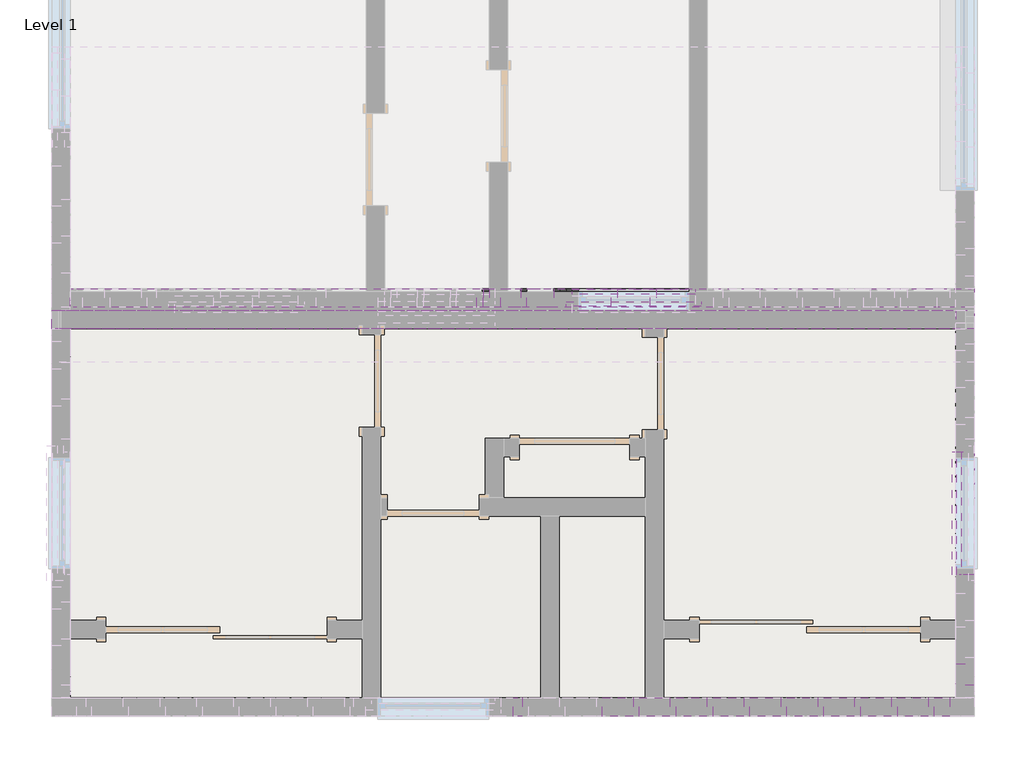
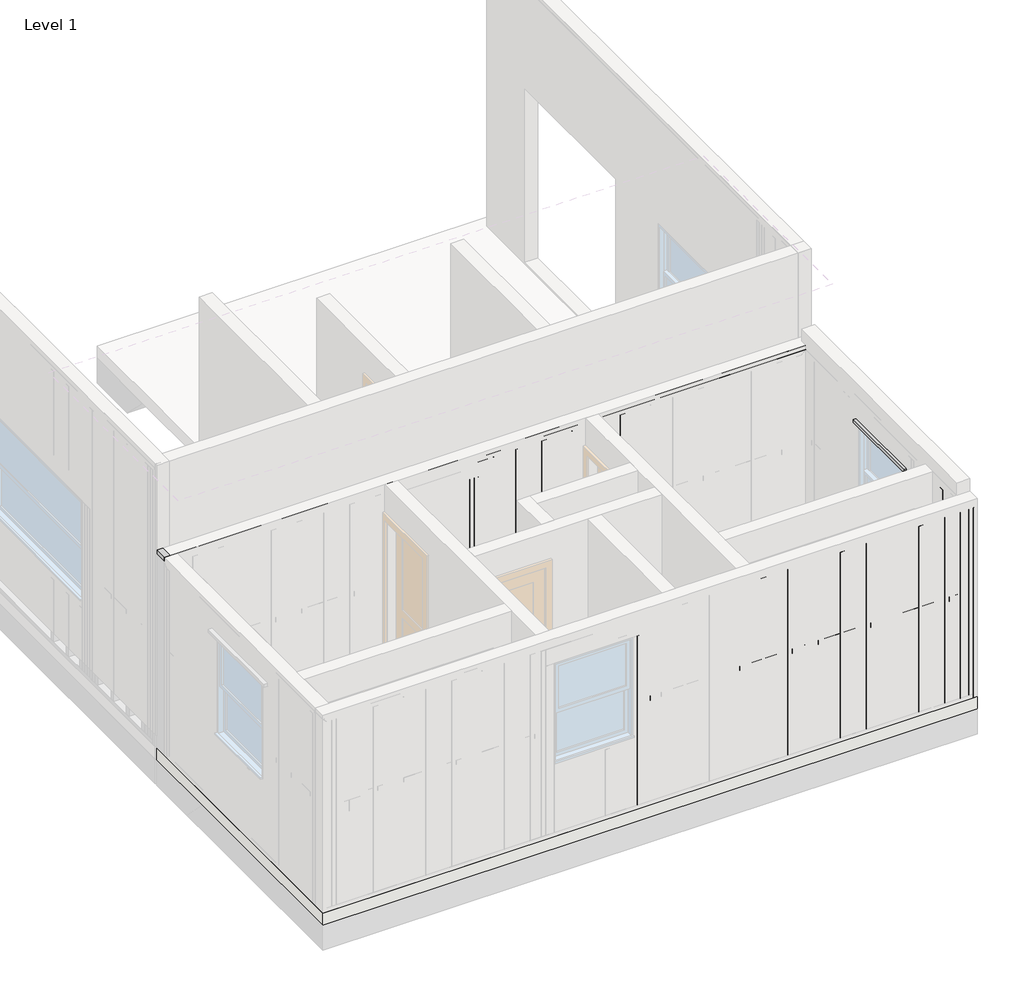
# One storey, part 5 of 12: 100 beams, 1 slab.
"""IFC4 building model written with IfcOpenShell, lengths in millimetres."""

from ifc_helpers import new_model, si_unit, frame, origin, origin_with_axes, place, context, project, spatial, polyline, outline, extrude, transform, mapped, element, save
from components import beam_67868551, beam_e1398387, beam_b7b81975, beam_623489ec, beam_31794994, beam_558964e0, beam_c16debae, beam_7e436a35, beam_3cab4559, beam_e0216813, beam_4715e774, beam_b7962ac8, beam_15472744, beam_19b97b81, beam_e041d9c6, beam_6e875e43, beam_62b04b6a, beam_9a5d82eb, beam_dd90ffe3, beam_844bd07f, beam_abd72be2, beam_0a899d87, beam_63272fa4, beam_2b10ba76, beam_9d6aa0d6, beam_51b55d0f, beam_34389604, beam_adc93808, beam_bb747b8e, beam_e5826ba7, beam_1fd180ee

model = new_model("IFC4")

# Units and contexts
model_context = context("Model", 3, world=origin())
ifc_project = project(units=[si_unit("LENGTHUNIT", "METRE", prefix="MILLI")], contexts=[model_context])

# Site, building, storey
site = spatial("IfcSite", under=ifc_project)
building = spatial("IfcBuilding", under=site)
storey = spatial("IfcBuildingStorey", under=building, Name="Level 1", Elevation=0.0)

# Beams
placement = place(None, origin())
element("IfcBeam", 1, ObjectType="Rectangular(Timber)-Beam : Timber_0' - 1 31/32\" x0' - 5 29/32\" _ContentGenerator", at=placement, inside=storey, context=model_context, shape_type="SweptSolid", body=[
    extrude(outline(polyline([(2387.6, -3909.6740766), (2336.8, -3960.4740766), (0.0, -3960.4740766), (0.0, -3909.6740766), (2387.6, -3909.6740766)])), frame((0.0, -28538.9763369, 0.0), z_axis=(0.0, 1.0, 0.0), x_axis=(0.0, 0.0, 1.0)), (0.0, 0.0, 1.0), 152.4),
])
element("IfcBeam", 2, ObjectType="Rectangular(Timber)-Beam : Timber_0' - 1 31/32\" x0' - 5 29/32\" _ContentGenerator", at=placement, inside=storey, context=model_context, shape_type="SweptSolid", body=[
    extrude(outline(polyline([(-28386.5663369, 2387.6), (-28335.7663369, 2336.8), (-28335.7663369, 0.0), (-28386.5663369, 0.0), (-28386.5663369, 2387.6)])), frame((-4062.0790766, 0.0, 0.0), z_axis=(1.0, 0.0, 0.0), x_axis=(0.0, 1.0, 0.0)), (0.0, 0.0, 1.0), 152.4),
])
element("IfcBeam", 3, ObjectType="Rectangular(Timber)-Beam : Timber_0' - 1 31/32\" x0' - 5 29/32\" _ContentGenerator", at=placement, inside=storey, context=model_context, shape_type="SweptSolid", body=[
    extrude(outline(polyline([(2387.6, -11529.6840766), (2336.8, -11478.8840766), (2336.8, -4112.8890766), (2387.6, -4062.0890766), (2387.6, -11529.6840766)])), frame((0.0, -25338.5763369, 0.0), z_axis=(0.0, 1.0, 0.0), x_axis=(0.0, 0.0, 1.0)), (0.0, 0.0, 1.0), 152.4),
])
element("IfcBeam", 4, ObjectType="Rectangular(Timber)-Beam : Timber_0' - 1 31/32\" x0' - 5 29/32\" _ContentGenerator", at=placement, inside=storey, context=model_context, shape_type="SweptSolid", body=[
    extrude(outline(polyline([(-7973.6840766, -25186.1763369), (-7922.8840766, -25186.1763369), (-7922.8840766, -25338.5763369), (-7973.6840766, -25338.5763369), (-7973.6840766, -25186.1763369)])), origin_with_axes(), (0.0, 0.0, 1.0), 2152.65),
])
element("IfcBeam", 5, ObjectType="Rectangular(Timber)-Beam : Timber_0' - 1 31/32\" x0' - 5 29/32\" _ContentGenerator", at=placement, inside=storey, context=model_context, shape_type="SweptSolid", body=[
    extrude(outline(polyline([(-7872.0890766, -25186.1763369), (-7821.2890766, -25186.1763369), (-7821.2890766, -25338.5763369), (-7872.0890766, -25338.5763369), (-7872.0890766, -25186.1763369)])), frame((0.0, 0.0, 50.8), z_axis=(0.0, 0.0, 1.0), x_axis=(1.0, 0.0, 0.0)), (0.0, 0.0, 1.0), 2286.0),
])
element("IfcBeam", 6, ObjectType="Rectangular(Timber)-Beam : Timber_0' - 1 31/32\" x0' - 5 29/32\" _ContentGenerator", at=placement, inside=storey, context=model_context, shape_type="SweptSolid", body=[
    extrude(outline(polyline([(3380.856975, -3960.4740766), (3431.656975, -3909.6740766), (3431.656975, -11377.2690766), (3380.856975, -11326.4690766), (3380.856975, -3960.4740766)])), frame((0.0, -25160.7763369, 0.0), z_axis=(0.0, 1.0, 0.0), x_axis=(0.0, 0.0, 1.0)), (0.0, 0.0, 1.0), 152.4),
])
element("IfcBeam", 7, ObjectType="Rectangular(Timber)-Beam : Timber_0' - 1 31/32\" x0' - 5 29/32\" _ContentGenerator", at=placement, inside=storey, context=model_context, shape_type="SweptSolid", body=[
    extrude(outline(polyline([(-7973.6840766, -25008.3763369), (-7922.8840766, -25008.3763369), (-7922.8840766, -25160.7763369), (-7973.6840766, -25160.7763369), (-7973.6840766, -25008.3763369)])), origin_with_axes(), (0.0, 0.0, 1.0), 2184.4),
])
element("IfcBeam", 8, ObjectType="Rectangular(Timber)-Beam : Timber_0' - 1 31/32\" x0' - 5 29/32\" _ContentGenerator", at=placement, inside=storey, context=model_context, shape_type="SweptSolid", body=[
    extrude(outline(polyline([(-7922.8840766, -25008.3763369), (-7872.0840766, -25008.3763369), (-7872.0840766, -25160.7763369), (-7922.8840766, -25160.7763369), (-7922.8840766, -25008.3763369)])), frame((0.0, 0.0, 25.4), z_axis=(0.0, 0.0, 1.0), x_axis=(1.0, 0.0, 0.0)), (0.0, 0.0, 1.0), 2159.0),
])
element("IfcBeam", 9, ObjectType="Rectangular(Timber)-Beam : Timber_0' - 1 31/32\" x0' - 5 29/32\" _ContentGenerator", at=placement, inside=storey, context=model_context, shape_type="SweptSolid", body=[
    extrude(outline(polyline([(-7922.8840766, -25186.1763369), (-7872.0840766, -25186.1763369), (-7872.0840766, -25338.5763369), (-7922.8840766, -25338.5763369), (-7922.8840766, -25186.1763369)])), frame((0.0, 0.0, 50.8), z_axis=(0.0, 0.0, 1.0), x_axis=(1.0, 0.0, 0.0)), (0.0, 0.0, 1.0), 2101.85),
])
element("IfcBeam", 10, ObjectType="Rectangular(Timber)-Beam : Timber_0' - 1 31/32\" x0' - 5 29/32\" _ContentGenerator", at=placement, inside=storey, context=model_context, shape_type="SweptSolid", body=[
    extrude(outline(polyline([(-7821.3040766, -25186.1763369), (-7770.5040766, -25186.1763369), (-7770.5040766, -25338.5763369), (-7821.3040766, -25338.5763369), (-7821.3040766, -25186.1763369)])), frame((0.0, 0.0, 50.8), z_axis=(0.0, 0.0, 1.0), x_axis=(1.0, 0.0, 0.0)), (0.0, 0.0, 1.0), 2286.0),
])
beam_shape = beam_67868551(model_context)
element("IfcBeam", 11, ObjectType="Rectangular(Timber)-Beam : Timber_0' - 1 31/32\" x0' - 5 29/32\" _ContentGenerator", at=placement, inside=storey, context=model_context, shape_type="MappedRepresentation", body=[
    mapped(beam_shape, transform((-7745.0915766, -25262.3763369, 1219.2), x_axis=(-1.0000000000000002, 0.0, 0.0), y_axis=(0.0, 0.0, -1.0000000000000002), z_axis=(0.0, -1.0000000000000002, 0.0))),
])
beam_2_shape = beam_e1398387(model_context)
element("IfcBeam", 12, ObjectType="Rectangular(Timber)-Beam : Timber_0' - 1 31/32\" x0' - 5 29/32\" _ContentGenerator", at=placement, inside=storey, context=model_context, shape_type="MappedRepresentation", body=[
    mapped(beam_2_shape, transform((-7679.0440763, -28462.7763369, 1314.45), x_axis=(1.0000000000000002, 0.0, 0.0), y_axis=(0.0, 0.0, -1.0000000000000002), z_axis=(0.0, 1.0000000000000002, 0.0))),
])
beam_3_shape = beam_b7b81975(model_context)
element("IfcBeam", 13, ObjectType="Rectangular(Timber)-Beam : Timber_0' - 1 31/32\" x0' - 5 29/32\" _ContentGenerator", at=placement, inside=storey, context=model_context, shape_type="MappedRepresentation", body=[
    mapped(beam_3_shape, transform((-7846.6840766, -25084.5763369, 1715.8284875), x_axis=(0.0, 0.0, 1.0), y_axis=(1.0, 0.0, 0.0), z_axis=(0.0, 1.0, 0.0))),
])
beam_4_shape = beam_623489ec(model_context)
element("IfcBeam", 14, ObjectType="Rectangular(Timber)-Beam : Timber_0' - 1 31/32\" x0' - 5 29/32\" _ContentGenerator", at=placement, inside=storey, context=model_context, shape_type="MappedRepresentation", body=[
    mapped(beam_4_shape, transform((-7739.3665766, -25084.5763369, 1314.45), x_axis=(1.0000000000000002, 0.0, 0.0), y_axis=(0.0, 0.0, -1.0000000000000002), z_axis=(0.0, 1.0000000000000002, 0.0))),
])
beam_5_shape = beam_31794994(model_context)
element("IfcBeam", 15, ObjectType="Rectangular(Timber)-Beam : Timber_0' - 1 31/32\" x0' - 5 29/32\" _ContentGenerator", at=placement, inside=storey, context=model_context, shape_type="MappedRepresentation", body=[
    mapped(beam_5_shape, transform((-7508.2240766, -25084.5763369, 1314.45), x_axis=(1.0000000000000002, 0.0, 0.0), y_axis=(0.0, 0.0, -1.0000000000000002), z_axis=(0.0, 1.0000000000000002, 0.0))),
])
beam_6_shape = beam_558964e0(model_context)
element("IfcBeam", 16, ObjectType="Rectangular(Timber)-Beam : Timber_0' - 1 31/32\" x0' - 5 29/32\" _ContentGenerator", at=placement, inside=storey, context=model_context, shape_type="MappedRepresentation", body=[
    mapped(beam_6_shape, transform((-3985.8690766, -28462.7763369, 1193.8), x_axis=(0.0, 0.0, 1.0), y_axis=(1.0, 0.0, 0.0), z_axis=(0.0, 1.0, 0.0))),
])
element("IfcBeam", 17, ObjectType="Rectangular(Timber)-Beam : Timber_0' - 1 31/32\" x0' - 5 29/32\" _ContentGenerator", at=placement, inside=storey, context=model_context, shape_type="MappedRepresentation", body=[
    mapped(beam_6_shape, transform((-4036.6690766, -28462.7763369, 1193.8), x_axis=(0.0, 0.0, 1.0), y_axis=(1.0, 0.0, 0.0), z_axis=(0.0, 1.0, 0.0))),
])
element("IfcBeam", 18, ObjectType="Rectangular(Timber)-Beam : Timber_0' - 1 31/32\" x0' - 5 29/32\" _ContentGenerator", at=placement, inside=storey, context=model_context, shape_type="MappedRepresentation", body=[
    mapped(beam_6_shape, transform((-6703.6790766, -28462.7763369, 1193.8), x_axis=(0.0, 0.0, 1.0), y_axis=(1.0, 0.0, 0.0), z_axis=(0.0, 1.0, 0.0))),
])
element("IfcBeam", 19, ObjectType="Rectangular(Timber)-Beam : Timber_0' - 1 31/32\" x0' - 5 29/32\" _ContentGenerator", at=placement, inside=storey, context=model_context, shape_type="MappedRepresentation", body=[
    mapped(beam_6_shape, transform((-6398.8790766, -28462.7763369, 1193.8), x_axis=(0.0, 0.0, 1.0), y_axis=(1.0, 0.0, 0.0), z_axis=(0.0, 1.0, 0.0))),
])
element("IfcBeam", 20, ObjectType="Rectangular(Timber)-Beam : Timber_0' - 1 31/32\" x0' - 5 29/32\" _ContentGenerator", at=placement, inside=storey, context=model_context, shape_type="MappedRepresentation", body=[
    mapped(beam_6_shape, transform((-6094.0790766, -28462.7763369, 1193.8), x_axis=(0.0, 0.0, 1.0), y_axis=(1.0, 0.0, 0.0), z_axis=(0.0, 1.0, 0.0))),
])
element("IfcBeam", 21, ObjectType="Rectangular(Timber)-Beam : Timber_0' - 1 31/32\" x0' - 5 29/32\" _ContentGenerator", at=placement, inside=storey, context=model_context, shape_type="MappedRepresentation", body=[
    mapped(beam_6_shape, transform((-5789.2790766, -28462.7763369, 1193.8), x_axis=(0.0, 0.0, 1.0), y_axis=(1.0, 0.0, 0.0), z_axis=(0.0, 1.0, 0.0))),
])
element("IfcBeam", 22, ObjectType="Rectangular(Timber)-Beam : Timber_0' - 1 31/32\" x0' - 5 29/32\" _ContentGenerator", at=placement, inside=storey, context=model_context, shape_type="MappedRepresentation", body=[
    mapped(beam_6_shape, transform((-5484.4790766, -28462.7763369, 1193.8), x_axis=(0.0, 0.0, 1.0), y_axis=(1.0, 0.0, 0.0), z_axis=(0.0, 1.0, 0.0))),
])
element("IfcBeam", 23, ObjectType="Rectangular(Timber)-Beam : Timber_0' - 1 31/32\" x0' - 5 29/32\" _ContentGenerator", at=placement, inside=storey, context=model_context, shape_type="MappedRepresentation", body=[
    mapped(beam_6_shape, transform((-5179.6790766, -28462.7763369, 1193.8), x_axis=(0.0, 0.0, 1.0), y_axis=(1.0, 0.0, 0.0), z_axis=(0.0, 1.0, 0.0))),
])
element("IfcBeam", 24, ObjectType="Rectangular(Timber)-Beam : Timber_0' - 1 31/32\" x0' - 5 29/32\" _ContentGenerator", at=placement, inside=storey, context=model_context, shape_type="MappedRepresentation", body=[
    mapped(beam_6_shape, transform((-4874.8790766, -28462.7763369, 1193.8), x_axis=(0.0, 0.0, 1.0), y_axis=(1.0, 0.0, 0.0), z_axis=(0.0, 1.0, 0.0))),
])
element("IfcBeam", 25, ObjectType="Rectangular(Timber)-Beam : Timber_0' - 1 31/32\" x0' - 5 29/32\" _ContentGenerator", at=placement, inside=storey, context=model_context, shape_type="MappedRepresentation", body=[
    mapped(beam_6_shape, transform((-4570.0790766, -28462.7763369, 1193.8), x_axis=(0.0, 0.0, 1.0), y_axis=(1.0, 0.0, 0.0), z_axis=(0.0, 1.0, 0.0))),
])
element("IfcBeam", 26, ObjectType="Rectangular(Timber)-Beam : Timber_0' - 1 31/32\" x0' - 5 29/32\" _ContentGenerator", at=placement, inside=storey, context=model_context, shape_type="MappedRepresentation", body=[
    mapped(beam_6_shape, transform((-4265.2790766, -28462.7763369, 1193.8), x_axis=(0.0, 0.0, 1.0), y_axis=(1.0, 0.0, 0.0), z_axis=(0.0, 1.0, 0.0))),
])
element("IfcBeam", 27, ObjectType="Rectangular(Timber)-Beam : Timber_0' - 1 31/32\" x0' - 5 29/32\" _ContentGenerator", at=placement, inside=storey, context=model_context, shape_type="MappedRepresentation", body=[
    mapped(beam_6_shape, transform((-3985.8790766, -28310.3663369, 1193.8), x_axis=(0.0, 0.0, 1.0), y_axis=(0.0, -1.0, 0.0), z_axis=(1.0, 0.0, 0.0))),
])
element("IfcBeam", 28, ObjectType="Rectangular(Timber)-Beam : Timber_0' - 1 31/32\" x0' - 5 29/32\" _ContentGenerator", at=placement, inside=storey, context=model_context, shape_type="MappedRepresentation", body=[
    mapped(beam_6_shape, transform((-3985.8790766, -28081.7763369, 1193.8), x_axis=(0.0, 0.0, 1.0), y_axis=(0.0, -1.0, 0.0), z_axis=(1.0, 0.0, 0.0))),
])
element("IfcBeam", 29, ObjectType="Rectangular(Timber)-Beam : Timber_0' - 1 31/32\" x0' - 5 29/32\" _ContentGenerator", at=placement, inside=storey, context=model_context, shape_type="MappedRepresentation", body=[
    mapped(beam_6_shape, transform((-6195.6790766, -25262.3763369, 1193.8), x_axis=(0.0, 0.0, 1.0), y_axis=(1.0, 0.0, 0.0), z_axis=(0.0, 1.0, 0.0))),
])
element("IfcBeam", 30, ObjectType="Rectangular(Timber)-Beam : Timber_0' - 1 31/32\" x0' - 5 29/32\" _ContentGenerator", at=placement, inside=storey, context=model_context, shape_type="MappedRepresentation", body=[
    mapped(beam_6_shape, transform((-6500.4790766, -25262.3763369, 1193.8), x_axis=(0.0, 0.0, 1.0), y_axis=(1.0, 0.0, 0.0), z_axis=(0.0, 1.0, 0.0))),
])
element("IfcBeam", 31, ObjectType="Rectangular(Timber)-Beam : Timber_0' - 1 31/32\" x0' - 5 29/32\" _ContentGenerator", at=placement, inside=storey, context=model_context, shape_type="MappedRepresentation", body=[
    mapped(beam_6_shape, transform((-6805.2790766, -25262.3763369, 1193.8), x_axis=(0.0, 0.0, 1.0), y_axis=(1.0, 0.0, 0.0), z_axis=(0.0, 1.0, 0.0))),
])
element("IfcBeam", 32, ObjectType="Rectangular(Timber)-Beam : Timber_0' - 1 31/32\" x0' - 5 29/32\" _ContentGenerator", at=placement, inside=storey, context=model_context, shape_type="MappedRepresentation", body=[
    mapped(beam_6_shape, transform((-7110.0790766, -25262.3763369, 1193.8), x_axis=(0.0, 0.0, 1.0), y_axis=(1.0, 0.0, 0.0), z_axis=(0.0, 1.0, 0.0))),
])
element("IfcBeam", 33, ObjectType="Rectangular(Timber)-Beam : Timber_0' - 1 31/32\" x0' - 5 29/32\" _ContentGenerator", at=placement, inside=storey, context=model_context, shape_type="MappedRepresentation", body=[
    mapped(beam_6_shape, transform((-7414.8790766, -25262.3763369, 1193.8), x_axis=(0.0, 0.0, 1.0), y_axis=(1.0, 0.0, 0.0), z_axis=(0.0, 1.0, 0.0))),
])
element("IfcBeam", 34, ObjectType="Rectangular(Timber)-Beam : Timber_0' - 1 31/32\" x0' - 5 29/32\" _ContentGenerator", at=placement, inside=storey, context=model_context, shape_type="MappedRepresentation", body=[
    mapped(beam_6_shape, transform((-7719.6790766, -25262.3763369, 1193.8), x_axis=(0.0, 0.0, 1.0), y_axis=(1.0, 0.0, 0.0), z_axis=(0.0, 1.0, 0.0))),
])
element("IfcBeam", 35, ObjectType="Rectangular(Timber)-Beam : Timber_0' - 1 31/32\" x0' - 5 29/32\" _ContentGenerator", at=placement, inside=storey, context=model_context, shape_type="MappedRepresentation", body=[
    mapped(beam_6_shape, transform((-4087.4690772, -28462.7763369, 1193.8), x_axis=(0.0, 0.0, 1.0), y_axis=(1.0, 0.0, 0.0), z_axis=(0.0, 1.0, 0.0))),
])
element("IfcBeam", 36, ObjectType="Rectangular(Timber)-Beam : Timber_0' - 1 31/32\" x0' - 5 29/32\" _ContentGenerator", at=placement, inside=storey, context=model_context, shape_type="MappedRepresentation", body=[
    mapped(beam_6_shape, transform((-7618.0790766, -28462.7763369, 1193.8), x_axis=(0.0, 0.0, 1.0), y_axis=(1.0, 0.0, 0.0), z_axis=(0.0, 1.0, 0.0))),
])
beam_7_shape = beam_c16debae(model_context)
element("IfcBeam", 37, ObjectType="Rectangular(Timber)-Beam : Timber_0' - 1 31/32\" x0' - 5 29/32\" _ContentGenerator", at=placement, inside=storey, context=model_context, shape_type="MappedRepresentation", body=[
    mapped(beam_7_shape, transform((-6723.999102, -25084.5763369, 889.0), x_axis=(1.0000000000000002, 0.0, 0.0), y_axis=(0.0, 0.0, -1.0000000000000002), z_axis=(0.0, 1.0000000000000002, 0.0))),
])
beam_8_shape = beam_7e436a35(model_context)
element("IfcBeam", 38, ObjectType="Rectangular(Timber)-Beam : Timber_0' - 1 31/32\" x0' - 5 29/32\" _ContentGenerator", at=placement, inside=storey, context=model_context, shape_type="MappedRepresentation", body=[
    mapped(beam_8_shape, transform((-7993.9890766, -25084.5763369, 2858.8284875), x_axis=(0.0, 0.0, 1.0), y_axis=(1.0, 0.0, 0.0), z_axis=(0.0, 1.0, 0.0))),
])
element("IfcBeam", 39, ObjectType="Rectangular(Timber)-Beam : Timber_0' - 1 31/32\" x0' - 5 29/32\" _ContentGenerator", at=placement, inside=storey, context=model_context, shape_type="MappedRepresentation", body=[
    mapped(beam_8_shape, transform((-7943.1890766, -25084.5763369, 2858.8284875), x_axis=(0.0, 0.0, 1.0), y_axis=(1.0, 0.0, 0.0), z_axis=(0.0, 1.0, 0.0))),
])
beam_9_shape = beam_3cab4559(model_context)
element("IfcBeam", 40, ObjectType="Rectangular(Timber)-Beam : Timber_0' - 1 31/32\" x0' - 5 29/32\" _ContentGenerator", at=placement, inside=storey, context=model_context, shape_type="MappedRepresentation", body=[
    mapped(beam_9_shape, transform((-7795.8790766, -25262.3763369, 2413.0), x_axis=(-1.0000000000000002, 0.0, 0.0), y_axis=(0.0, 0.0, -1.0000000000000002), z_axis=(0.0, -1.0000000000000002, 0.0))),
])
beam_10_shape = beam_e0216813(model_context)
element("IfcBeam", 41, ObjectType="Rectangular(Timber)-Beam : Timber_0' - 1 31/32\" x0' - 5 29/32\" _ContentGenerator", at=placement, inside=storey, context=model_context, shape_type="MappedRepresentation", body=[
    mapped(beam_10_shape, transform((-7206.589102, -25084.5763369, 1117.6), x_axis=(0.0, 0.0, 1.0), y_axis=(1.0, 0.0, 0.0), z_axis=(0.0, 1.0, 0.0))),
])
element("IfcBeam", 42, ObjectType="Rectangular(Timber)-Beam : Timber_0' - 1 31/32\" x0' - 5 29/32\" _ContentGenerator", at=placement, inside=storey, context=model_context, shape_type="MappedRepresentation", body=[
    mapped(beam_10_shape, transform((-6241.389102, -25084.5763369, 1117.6), x_axis=(0.0, 0.0, 1.0), y_axis=(1.0, 0.0, 0.0), z_axis=(0.0, 1.0, 0.0))),
])
element("IfcBeam", 43, ObjectType="Rectangular(Timber)-Beam : Timber_0' - 1 31/32\" x0' - 5 29/32\" _ContentGenerator", at=placement, inside=storey, context=model_context, shape_type="MappedRepresentation", body=[
    mapped(beam_10_shape, transform((-7257.389102, -25084.5763369, 1117.6), x_axis=(0.0, 0.0, 1.0), y_axis=(1.0, 0.0, 0.0), z_axis=(0.0, 1.0, 0.0))),
])
beam_11_shape = beam_4715e774(model_context)
element("IfcBeam", 44, ObjectType="Rectangular(Timber)-Beam : Timber_0' - 1 31/32\" x0' - 5 29/32\" _ContentGenerator", at=placement, inside=storey, context=model_context, shape_type="MappedRepresentation", body=[
    mapped(beam_11_shape, transform((-7846.6590766, -28462.7763369, 1092.2), x_axis=(0.0, 0.0, 1.0), y_axis=(1.0, 0.0, 0.0), z_axis=(0.0, 1.0, 0.0))),
])
beam_12_shape = beam_b7962ac8(model_context)
element("IfcBeam", 45, ObjectType="Rectangular(Timber)-Beam : Timber_0' - 1 31/32\" x0' - 5 29/32\" _ContentGenerator", at=placement, inside=storey, context=model_context, shape_type="MappedRepresentation", body=[
    mapped(beam_12_shape, transform((-7155.789102, -25084.5763369, 457.2), x_axis=(0.0, 0.0, 1.0), y_axis=(1.0, 0.0, 0.0), z_axis=(0.0, 1.0, 0.0))),
])
element("IfcBeam", 46, ObjectType="Rectangular(Timber)-Beam : Timber_0' - 1 31/32\" x0' - 5 29/32\" _ContentGenerator", at=placement, inside=storey, context=model_context, shape_type="MappedRepresentation", body=[
    mapped(beam_12_shape, transform((-6292.189102, -25084.5763369, 457.2), x_axis=(0.0, 0.0, 1.0), y_axis=(1.0, 0.0, 0.0), z_axis=(0.0, 1.0, 0.0))),
])
element("IfcBeam", 47, ObjectType="Rectangular(Timber)-Beam : Timber_0' - 1 31/32\" x0' - 5 29/32\" _ContentGenerator", at=placement, inside=storey, context=model_context, shape_type="MappedRepresentation", body=[
    mapped(beam_12_shape, transform((-6884.8657686, -25084.5763369, 457.2), x_axis=(0.0, 0.0, 1.0), y_axis=(1.0, 0.0, 0.0), z_axis=(0.0, 1.0, 0.0))),
])
element("IfcBeam", 48, ObjectType="Rectangular(Timber)-Beam : Timber_0' - 1 31/32\" x0' - 5 29/32\" _ContentGenerator", at=placement, inside=storey, context=model_context, shape_type="MappedRepresentation", body=[
    mapped(beam_12_shape, transform((-6563.1324353, -25084.5763369, 457.2), x_axis=(0.0, 0.0, 1.0), y_axis=(1.0, 0.0, 0.0), z_axis=(0.0, 1.0, 0.0))),
])
beam_13_shape = beam_15472744(model_context)
element("IfcBeam", 49, ObjectType="Rectangular(Timber)-Beam : Timber_0' - 1 31/32\" x0' - 5 29/32\" _ContentGenerator", at=placement, inside=storey, context=model_context, shape_type="MappedRepresentation", body=[
    mapped(beam_13_shape, transform((-7632.0490766, -25084.5763369, 1715.8284875), x_axis=(0.0, 0.0, 1.0), y_axis=(1.0, 0.0, 0.0), z_axis=(0.0, 1.0, 0.0))),
])
element("IfcBeam", 50, ObjectType="Rectangular(Timber)-Beam : Timber_0' - 1 31/32\" x0' - 5 29/32\" _ContentGenerator", at=placement, inside=storey, context=model_context, shape_type="MappedRepresentation", body=[
    mapped(beam_13_shape, transform((-7358.9990766, -25084.5763369, 1715.8284875), x_axis=(0.0, 0.0, 1.0), y_axis=(1.0, 0.0, 0.0), z_axis=(0.0, 1.0, 0.0))),
])
element("IfcBeam", 51, ObjectType="Rectangular(Timber)-Beam : Timber_0' - 1 31/32\" x0' - 5 29/32\" _ContentGenerator", at=placement, inside=storey, context=model_context, shape_type="MappedRepresentation", body=[
    mapped(beam_13_shape, transform((-7308.189102, -25084.5763369, 1715.8284875), x_axis=(0.0, 0.0, 1.0), y_axis=(1.0, 0.0, 0.0), z_axis=(0.0, 1.0, 0.0))),
])
element("IfcBeam", 52, ObjectType="Rectangular(Timber)-Beam : Timber_0' - 1 31/32\" x0' - 5 29/32\" _ContentGenerator", at=placement, inside=storey, context=model_context, shape_type="MappedRepresentation", body=[
    mapped(beam_13_shape, transform((-6139.789102, -25084.5763369, 1715.8284875), x_axis=(0.0, 0.0, 1.0), y_axis=(1.0, 0.0, 0.0), z_axis=(0.0, 1.0, 0.0))),
])
element("IfcBeam", 53, ObjectType="Rectangular(Timber)-Beam : Timber_0' - 1 31/32\" x0' - 5 29/32\" _ContentGenerator", at=placement, inside=storey, context=model_context, shape_type="MappedRepresentation", body=[
    mapped(beam_13_shape, transform((-7795.8840766, -25084.5763369, 1715.8284875), x_axis=(0.0, 0.0, 1.0), y_axis=(1.0, 0.0, 0.0), z_axis=(0.0, 1.0, 0.0))),
])
beam_14_shape = beam_19b97b81(model_context)
element("IfcBeam", 54, ObjectType="Rectangular(Timber)-Beam : Timber_0' - 1 31/32\" x0' - 5 29/32\" _ContentGenerator", at=placement, inside=storey, context=model_context, shape_type="MappedRepresentation", body=[
    mapped(beam_14_shape, transform((-6856.0790766, -28462.7763369, 1314.45), x_axis=(1.0000000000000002, 0.0, 0.0), y_axis=(0.0, 0.0, -1.0000000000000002), z_axis=(0.0, 1.0000000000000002, 0.0))),
])
element("IfcBeam", 55, ObjectType="Rectangular(Timber)-Beam : Timber_0' - 1 31/32\" x0' - 5 29/32\" _ContentGenerator", at=placement, inside=storey, context=model_context, shape_type="MappedRepresentation", body=[
    mapped(beam_14_shape, transform((-6551.2790766, -28462.7763369, 1314.45), x_axis=(1.0000000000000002, 0.0, 0.0), y_axis=(0.0, 0.0, -1.0000000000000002), z_axis=(0.0, 1.0000000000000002, 0.0))),
])
element("IfcBeam", 56, ObjectType="Rectangular(Timber)-Beam : Timber_0' - 1 31/32\" x0' - 5 29/32\" _ContentGenerator", at=placement, inside=storey, context=model_context, shape_type="MappedRepresentation", body=[
    mapped(beam_14_shape, transform((-6246.4790766, -28462.7763369, 1314.45), x_axis=(1.0000000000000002, 0.0, 0.0), y_axis=(0.0, 0.0, -1.0000000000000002), z_axis=(0.0, 1.0000000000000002, 0.0))),
])
element("IfcBeam", 57, ObjectType="Rectangular(Timber)-Beam : Timber_0' - 1 31/32\" x0' - 5 29/32\" _ContentGenerator", at=placement, inside=storey, context=model_context, shape_type="MappedRepresentation", body=[
    mapped(beam_14_shape, transform((-5941.6790766, -28462.7763369, 1314.45), x_axis=(1.0000000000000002, 0.0, 0.0), y_axis=(0.0, 0.0, -1.0000000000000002), z_axis=(0.0, 1.0000000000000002, 0.0))),
])
element("IfcBeam", 58, ObjectType="Rectangular(Timber)-Beam : Timber_0' - 1 31/32\" x0' - 5 29/32\" _ContentGenerator", at=placement, inside=storey, context=model_context, shape_type="MappedRepresentation", body=[
    mapped(beam_14_shape, transform((-5636.8790766, -28462.7763369, 1314.45), x_axis=(1.0000000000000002, 0.0, 0.0), y_axis=(0.0, 0.0, -1.0000000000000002), z_axis=(0.0, 1.0000000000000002, 0.0))),
])
element("IfcBeam", 59, ObjectType="Rectangular(Timber)-Beam : Timber_0' - 1 31/32\" x0' - 5 29/32\" _ContentGenerator", at=placement, inside=storey, context=model_context, shape_type="MappedRepresentation", body=[
    mapped(beam_14_shape, transform((-5332.0790766, -28462.7763369, 1314.45), x_axis=(1.0000000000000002, 0.0, 0.0), y_axis=(0.0, 0.0, -1.0000000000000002), z_axis=(0.0, 1.0000000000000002, 0.0))),
])
element("IfcBeam", 60, ObjectType="Rectangular(Timber)-Beam : Timber_0' - 1 31/32\" x0' - 5 29/32\" _ContentGenerator", at=placement, inside=storey, context=model_context, shape_type="MappedRepresentation", body=[
    mapped(beam_14_shape, transform((-5027.2790766, -28462.7763369, 1314.45), x_axis=(1.0000000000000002, 0.0, 0.0), y_axis=(0.0, 0.0, -1.0000000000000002), z_axis=(0.0, 1.0000000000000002, 0.0))),
])
element("IfcBeam", 61, ObjectType="Rectangular(Timber)-Beam : Timber_0' - 1 31/32\" x0' - 5 29/32\" _ContentGenerator", at=placement, inside=storey, context=model_context, shape_type="MappedRepresentation", body=[
    mapped(beam_14_shape, transform((-4722.4790766, -28462.7763369, 1314.45), x_axis=(1.0000000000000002, 0.0, 0.0), y_axis=(0.0, 0.0, -1.0000000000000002), z_axis=(0.0, 1.0000000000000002, 0.0))),
])
element("IfcBeam", 62, ObjectType="Rectangular(Timber)-Beam : Timber_0' - 1 31/32\" x0' - 5 29/32\" _ContentGenerator", at=placement, inside=storey, context=model_context, shape_type="MappedRepresentation", body=[
    mapped(beam_14_shape, transform((-4417.6790766, -28462.7763369, 1314.45), x_axis=(1.0000000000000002, 0.0, 0.0), y_axis=(0.0, 0.0, -1.0000000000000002), z_axis=(0.0, 1.0000000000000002, 0.0))),
])
element("IfcBeam", 63, ObjectType="Rectangular(Timber)-Beam : Timber_0' - 1 31/32\" x0' - 5 29/32\" _ContentGenerator", at=placement, inside=storey, context=model_context, shape_type="MappedRepresentation", body=[
    mapped(beam_14_shape, transform((-6043.2790766, -25262.3763369, 1219.2), x_axis=(-1.0000000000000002, 0.0, 0.0), y_axis=(0.0, 0.0, -1.0000000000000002), z_axis=(0.0, -1.0000000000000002, 0.0))),
])
element("IfcBeam", 64, ObjectType="Rectangular(Timber)-Beam : Timber_0' - 1 31/32\" x0' - 5 29/32\" _ContentGenerator", at=placement, inside=storey, context=model_context, shape_type="MappedRepresentation", body=[
    mapped(beam_14_shape, transform((-6348.0790766, -25262.3763369, 1219.2), x_axis=(-1.0000000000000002, 0.0, 0.0), y_axis=(0.0, 0.0, -1.0000000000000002), z_axis=(0.0, -1.0000000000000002, 0.0))),
])
element("IfcBeam", 65, ObjectType="Rectangular(Timber)-Beam : Timber_0' - 1 31/32\" x0' - 5 29/32\" _ContentGenerator", at=placement, inside=storey, context=model_context, shape_type="MappedRepresentation", body=[
    mapped(beam_14_shape, transform((-6652.8790766, -25262.3763369, 1219.2), x_axis=(-1.0000000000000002, 0.0, 0.0), y_axis=(0.0, 0.0, -1.0000000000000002), z_axis=(0.0, -1.0000000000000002, 0.0))),
])
element("IfcBeam", 66, ObjectType="Rectangular(Timber)-Beam : Timber_0' - 1 31/32\" x0' - 5 29/32\" _ContentGenerator", at=placement, inside=storey, context=model_context, shape_type="MappedRepresentation", body=[
    mapped(beam_14_shape, transform((-6957.6790766, -25262.3763369, 1219.2), x_axis=(-1.0000000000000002, 0.0, 0.0), y_axis=(0.0, 0.0, -1.0000000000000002), z_axis=(0.0, -1.0000000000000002, 0.0))),
])
element("IfcBeam", 67, ObjectType="Rectangular(Timber)-Beam : Timber_0' - 1 31/32\" x0' - 5 29/32\" _ContentGenerator", at=placement, inside=storey, context=model_context, shape_type="MappedRepresentation", body=[
    mapped(beam_14_shape, transform((-7262.4790766, -25262.3763369, 1219.2), x_axis=(-1.0000000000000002, 0.0, 0.0), y_axis=(0.0, 0.0, -1.0000000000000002), z_axis=(0.0, -1.0000000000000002, 0.0))),
])
element("IfcBeam", 68, ObjectType="Rectangular(Timber)-Beam : Timber_0' - 1 31/32\" x0' - 5 29/32\" _ContentGenerator", at=placement, inside=storey, context=model_context, shape_type="MappedRepresentation", body=[
    mapped(beam_14_shape, transform((-7567.2790766, -25262.3763369, 1219.2), x_axis=(-1.0000000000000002, 0.0, 0.0), y_axis=(0.0, 0.0, -1.0000000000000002), z_axis=(0.0, -1.0000000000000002, 0.0))),
])
beam_15_shape = beam_e041d9c6(model_context)
element("IfcBeam", 69, ObjectType="Rectangular(Timber)-Beam : Timber_0' - 1 31/32\" x0' - 5 29/32\" _ContentGenerator", at=placement, inside=storey, context=model_context, shape_type="MappedRepresentation", body=[
    mapped(beam_15_shape, transform((-3985.8790766, -28196.0713369, 1314.45), x_axis=(0.0, 1.0000000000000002, 0.0), y_axis=(0.0, 0.0, -1.0000000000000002), z_axis=(-1.0000000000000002, 0.0, 0.0))),
])
beam_16_shape = beam_6e875e43(model_context)
element("IfcBeam", 70, ObjectType="Rectangular(Timber)-Beam : Timber_0' - 1 31/32\" x0' - 5 29/32\" _ContentGenerator", at=placement, inside=storey, context=model_context, shape_type="MappedRepresentation", body=[
    mapped(beam_16_shape, transform((-4189.0740769, -28462.7763369, 1314.45), x_axis=(1.0000000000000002, 0.0, 0.0), y_axis=(0.0, 0.0, -1.0000000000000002), z_axis=(0.0, 1.0000000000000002, 0.0))),
])
beam_17_shape = beam_62b04b6a(model_context)
element("IfcBeam", 71, ObjectType="Rectangular(Timber)-Beam : Timber_0' - 1 31/32\" x0' - 5 29/32\" _ContentGenerator", at=placement, inside=storey, context=model_context, shape_type="MappedRepresentation", body=[
    mapped(beam_17_shape, transform((-6884.8657686, -25084.5763369, 2874.7034875), x_axis=(0.0, 0.0, 1.0), y_axis=(1.0, 0.0, 0.0), z_axis=(0.0, 1.0, 0.0))),
])
element("IfcBeam", 72, ObjectType="Rectangular(Timber)-Beam : Timber_0' - 1 31/32\" x0' - 5 29/32\" _ContentGenerator", at=placement, inside=storey, context=model_context, shape_type="MappedRepresentation", body=[
    mapped(beam_17_shape, transform((-6563.1324353, -25084.5763369, 2874.7034875), x_axis=(0.0, 0.0, 1.0), y_axis=(1.0, 0.0, 0.0), z_axis=(0.0, 1.0, 0.0))),
])
beam_18_shape = beam_9a5d82eb(model_context)
element("IfcBeam", 73, ObjectType="WallPlates : 6\" x 3\"", at=placement, inside=storey, context=model_context, shape_type="MappedRepresentation", body=[
    mapped(beam_18_shape, transform((-7833.9740766, -25262.3763369, 1123.95), x_axis=(-1.0000000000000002, 0.0, 0.0), y_axis=(0.0, 0.0, -1.0000000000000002), z_axis=(0.0, -1.0000000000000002, 0.0))),
])
beam_19_shape = beam_dd90ffe3(model_context)
element("IfcBeam", 74, ObjectType="WallPlates : 6\" x 3\"", at=placement, inside=storey, context=model_context, shape_type="MappedRepresentation", body=[
    mapped(beam_19_shape, transform((-7308.1940893, -25125.8513369, 1219.2), x_axis=(1.0000000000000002, 0.0, 0.0), y_axis=(0.0, 0.0, -1.0000000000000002), z_axis=(0.0, 1.0000000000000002, 0.0))),
])
element("IfcBeam", 75, ObjectType="WallPlates : 6\" x 3\"", at=placement, inside=storey, context=model_context, shape_type="MappedRepresentation", body=[
    mapped(beam_19_shape, transform((-7308.1940893, -25125.8513369, 809.8890829), x_axis=(1.0000000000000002, 0.0, 0.0), y_axis=(0.0, 0.0, -1.0000000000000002), z_axis=(0.0, 1.0000000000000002, 0.0))),
])
beam_20_shape = beam_844bd07f(model_context)
element("IfcBeam", 76, ObjectType="WallPlates : 6\" x 3\"", at=placement, inside=storey, context=model_context, shape_type="MappedRepresentation", body=[
    mapped(beam_20_shape, transform((-7058.4274353, -25125.8513369, 809.8890829), x_axis=(1.0000000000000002, 0.0, 0.0), y_axis=(0.0, 0.0, -1.0000000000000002), z_axis=(0.0, 1.0000000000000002, 0.0))),
])
beam_21_shape = beam_abd72be2(model_context)
element("IfcBeam", 77, ObjectType="WallPlates : 6\" x 3\"", at=placement, inside=storey, context=model_context, shape_type="MappedRepresentation", body=[
    mapped(beam_21_shape, transform((-7738.7340766, -25125.8513369, 1219.2), x_axis=(1.0000000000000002, 0.0, 0.0), y_axis=(0.0, 0.0, -1.0000000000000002), z_axis=(0.0, 1.0000000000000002, 0.0))),
])
beam_22_shape = beam_0a899d87(model_context)
element("IfcBeam", 78, ObjectType="WallPlates : 6\" x 3\"", at=placement, inside=storey, context=model_context, shape_type="MappedRepresentation", body=[
    mapped(beam_22_shape, transform((-7520.2915766, -25125.8513369, 1219.2), x_axis=(1.0000000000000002, 0.0, 0.0), y_axis=(0.0, 0.0, -1.0000000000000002), z_axis=(0.0, 1.0000000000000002, 0.0))),
])
beam_23_shape = beam_63272fa4(model_context)
element("IfcBeam", 79, ObjectType="WallPlates : 6\" x 3\"", at=placement, inside=storey, context=model_context, shape_type="MappedRepresentation", body=[
    mapped(beam_23_shape, transform((-7713.9665766, -25125.8513369, 809.8890829), x_axis=(1.0000000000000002, 0.0, 0.0), y_axis=(0.0, 0.0, -1.0000000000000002), z_axis=(0.0, 1.0000000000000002, 0.0))),
])
beam_24_shape = beam_2b10ba76(model_context)
element("IfcBeam", 80, ObjectType="WallPlates : 6\" x 3\"", at=placement, inside=storey, context=model_context, shape_type="MappedRepresentation", body=[
    mapped(beam_24_shape, transform((-7470.1240766, -25125.8513369, 809.8890829), x_axis=(1.0000000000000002, 0.0, 0.0), y_axis=(0.0, 0.0, -1.0000000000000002), z_axis=(0.0, 1.0000000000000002, 0.0))),
])
beam_25_shape = beam_9d6aa0d6(model_context)
element("IfcBeam", 81, ObjectType="WallPlates : 6\" x 3\"", at=placement, inside=storey, context=model_context, shape_type="MappedRepresentation", body=[
    mapped(beam_25_shape, transform((-6881.4790766, -28504.0513369, 1219.2), x_axis=(1.0000000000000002, 0.0, 0.0), y_axis=(0.0, 0.0, -1.0000000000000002), z_axis=(0.0, 1.0000000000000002, 0.0))),
])
element("IfcBeam", 82, ObjectType="WallPlates : 6\" x 3\"", at=placement, inside=storey, context=model_context, shape_type="MappedRepresentation", body=[
    mapped(beam_25_shape, transform((-6576.6790766, -28504.0513369, 1219.2), x_axis=(1.0000000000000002, 0.0, 0.0), y_axis=(0.0, 0.0, -1.0000000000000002), z_axis=(0.0, 1.0000000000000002, 0.0))),
])
element("IfcBeam", 83, ObjectType="WallPlates : 6\" x 3\"", at=placement, inside=storey, context=model_context, shape_type="MappedRepresentation", body=[
    mapped(beam_25_shape, transform((-6271.8790766, -28504.0513369, 1219.2), x_axis=(1.0000000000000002, 0.0, 0.0), y_axis=(0.0, 0.0, -1.0000000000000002), z_axis=(0.0, 1.0000000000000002, 0.0))),
])
element("IfcBeam", 84, ObjectType="WallPlates : 6\" x 3\"", at=placement, inside=storey, context=model_context, shape_type="MappedRepresentation", body=[
    mapped(beam_25_shape, transform((-5967.0790766, -28504.0513369, 1219.2), x_axis=(1.0000000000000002, 0.0, 0.0), y_axis=(0.0, 0.0, -1.0000000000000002), z_axis=(0.0, 1.0000000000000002, 0.0))),
])
element("IfcBeam", 85, ObjectType="WallPlates : 6\" x 3\"", at=placement, inside=storey, context=model_context, shape_type="MappedRepresentation", body=[
    mapped(beam_25_shape, transform((-5662.2790766, -28504.0513369, 1219.2), x_axis=(1.0000000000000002, 0.0, 0.0), y_axis=(0.0, 0.0, -1.0000000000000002), z_axis=(0.0, 1.0000000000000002, 0.0))),
])
element("IfcBeam", 86, ObjectType="WallPlates : 6\" x 3\"", at=placement, inside=storey, context=model_context, shape_type="MappedRepresentation", body=[
    mapped(beam_25_shape, transform((-5357.4790766, -28504.0513369, 1219.2), x_axis=(1.0000000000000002, 0.0, 0.0), y_axis=(0.0, 0.0, -1.0000000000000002), z_axis=(0.0, 1.0000000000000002, 0.0))),
])
element("IfcBeam", 87, ObjectType="WallPlates : 6\" x 3\"", at=placement, inside=storey, context=model_context, shape_type="MappedRepresentation", body=[
    mapped(beam_25_shape, transform((-5052.6790766, -28504.0513369, 1219.2), x_axis=(1.0000000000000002, 0.0, 0.0), y_axis=(0.0, 0.0, -1.0000000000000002), z_axis=(0.0, 1.0000000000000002, 0.0))),
])
element("IfcBeam", 88, ObjectType="WallPlates : 6\" x 3\"", at=placement, inside=storey, context=model_context, shape_type="MappedRepresentation", body=[
    mapped(beam_25_shape, transform((-4747.8790766, -28504.0513369, 1219.2), x_axis=(1.0000000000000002, 0.0, 0.0), y_axis=(0.0, 0.0, -1.0000000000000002), z_axis=(0.0, 1.0000000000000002, 0.0))),
])
element("IfcBeam", 89, ObjectType="WallPlates : 6\" x 3\"", at=placement, inside=storey, context=model_context, shape_type="MappedRepresentation", body=[
    mapped(beam_25_shape, transform((-4443.0790766, -28504.0513369, 1219.2), x_axis=(1.0000000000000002, 0.0, 0.0), y_axis=(0.0, 0.0, -1.0000000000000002), z_axis=(0.0, 1.0000000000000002, 0.0))),
])
beam_26_shape = beam_51b55d0f(model_context)
element("IfcBeam", 90, ObjectType="WallPlates : 6\" x 3\"", at=placement, inside=storey, context=model_context, shape_type="MappedRepresentation", body=[
    mapped(beam_26_shape, transform((-6076.294102, -25125.8513369, 1219.2), x_axis=(1.0000000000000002, 0.0, 0.0), y_axis=(0.0, 0.0, -1.0000000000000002), z_axis=(0.0, 1.0000000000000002, 0.0))),
])
element("IfcBeam", 91, ObjectType="WallPlates : 6\" x 3\"", at=placement, inside=storey, context=model_context, shape_type="MappedRepresentation", body=[
    mapped(beam_26_shape, transform((-7681.5740766, -28504.0513369, 1219.2), x_axis=(1.0000000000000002, 0.0, 0.0), y_axis=(0.0, 0.0, -1.0000000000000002), z_axis=(0.0, 1.0000000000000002, 0.0))),
])
beam_27_shape = beam_34389604(model_context)
element("IfcBeam", 92, ObjectType="WallPlates : 6\" x 3\"", at=placement, inside=storey, context=model_context, shape_type="MappedRepresentation", body=[
    mapped(beam_27_shape, transform((-7249.7790766, -25262.3763369, 1123.95), x_axis=(-1.0000000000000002, 0.0, 0.0), y_axis=(0.0, 0.0, -1.0000000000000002), z_axis=(0.0, -1.0000000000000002, 0.0))),
])
element("IfcBeam", 93, ObjectType="WallPlates : 6\" x 3\"", at=placement, inside=storey, context=model_context, shape_type="MappedRepresentation", body=[
    mapped(beam_27_shape, transform((-7554.5790766, -25262.3763369, 1123.95), x_axis=(-1.0000000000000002, 0.0, 0.0), y_axis=(0.0, 0.0, -1.0000000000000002), z_axis=(0.0, -1.0000000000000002, 0.0))),
])
beam_28_shape = beam_adc93808(model_context)
element("IfcBeam", 94, ObjectType="WallPlates : 6\" x 3\"", at=placement, inside=storey, context=model_context, shape_type="MappedRepresentation", body=[
    mapped(beam_28_shape, transform((-4201.7740769, -28504.0513369, 1219.2), x_axis=(1.0000000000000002, 0.0, 0.0), y_axis=(0.0, 0.0, -1.0000000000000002), z_axis=(0.0, 1.0000000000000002, 0.0))),
])
beam_29_shape = beam_bb747b8e(model_context)
element("IfcBeam", 95, ObjectType="WallPlates : 6\" x 3\"", at=placement, inside=storey, context=model_context, shape_type="MappedRepresentation", body=[
    mapped(beam_29_shape, transform((-3944.6040766, -28208.7713369, 1219.2), x_axis=(0.0, 1.0000000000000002, 0.0), y_axis=(0.0, 0.0, -1.0000000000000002), z_axis=(-1.0000000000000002, 0.0, 0.0))),
])
element("IfcBeam", 96, ObjectType="WallPlates : 6\" x 3\"", at=placement, inside=storey, context=model_context, shape_type="MappedRepresentation", body=[
    mapped(beam_29_shape, transform((-3944.6040766, -28208.7713369, 793.75), x_axis=(0.0, 1.0000000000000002, 0.0), y_axis=(0.0, 0.0, -1.0000000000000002), z_axis=(-1.0000000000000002, 0.0, 0.0))),
])
beam_30_shape = beam_e5826ba7(model_context)
element("IfcBeam", 97, ObjectType="WallPlates : 8\" x 2\"", at=placement, inside=storey, context=model_context, shape_type="MappedRepresentation", body=[
    mapped(beam_30_shape, transform((-6723.989102, -25135.3763369, 2276.475), x_axis=(1.0, 0.0, 0.0), y_axis=(0.0, 0.0, -1.0), z_axis=(0.0, 1.0, 0.0))),
])
beam_31_shape = beam_1fd180ee(model_context)
element("IfcBeam", 98, ObjectType="WallPlates : 8\" x 2\"", at=placement, inside=storey, context=model_context, shape_type="MappedRepresentation", body=[
    mapped(beam_31_shape, transform((-4036.6790766, -26862.5763369, 2244.725), x_axis=(0.0, 1.0, 0.0), y_axis=(0.0, 0.0, -1.0), z_axis=(-1.0, 0.0, 0.0))),
])
element("IfcBeam", 99, ObjectType="WallPlates : 8\" x 2\"", at=placement, inside=storey, context=model_context, shape_type="MappedRepresentation", body=[
    mapped(beam_31_shape, transform((-6723.999102, -25033.7763369, 2276.475), x_axis=(1.0, 0.0, 0.0), y_axis=(0.0, 0.0, -1.0), z_axis=(0.0, 1.0, 0.0))),
])
element("IfcBeam", 100, ObjectType="WallPlates : 8\" x 2\"", at=placement, inside=storey, context=model_context, shape_type="MappedRepresentation", body=[
    mapped(beam_31_shape, transform((-4001.7540766, -26862.5763369, 2133.6), x_axis=(0.0, 1.0, 0.0), y_axis=(-1.0, 0.0, 0.0), z_axis=(0.0, 0.0, 1.0))),
])

# Slab
element("IfcSlab", 101, ObjectType="zGeneric - 6", at=placement, inside=storey, context=model_context, shape_type="SweptSolid", body=[
    extrude(outline(polyline([(-3909.6790766, -25186.1763369), (-3909.6790766, -28538.9763369), (-11529.6790766, -28538.9763369), (-11529.6790766, -25186.1763369), (-3909.6790766, -25186.1763369)])), frame((0.0, 0.0, -152.4), z_axis=(0.0, 0.0, 1.0), x_axis=(1.0, 0.0, 0.0)), (0.0, 0.0, 1.0), 152.4),
])

save(model, "model.ifc")
